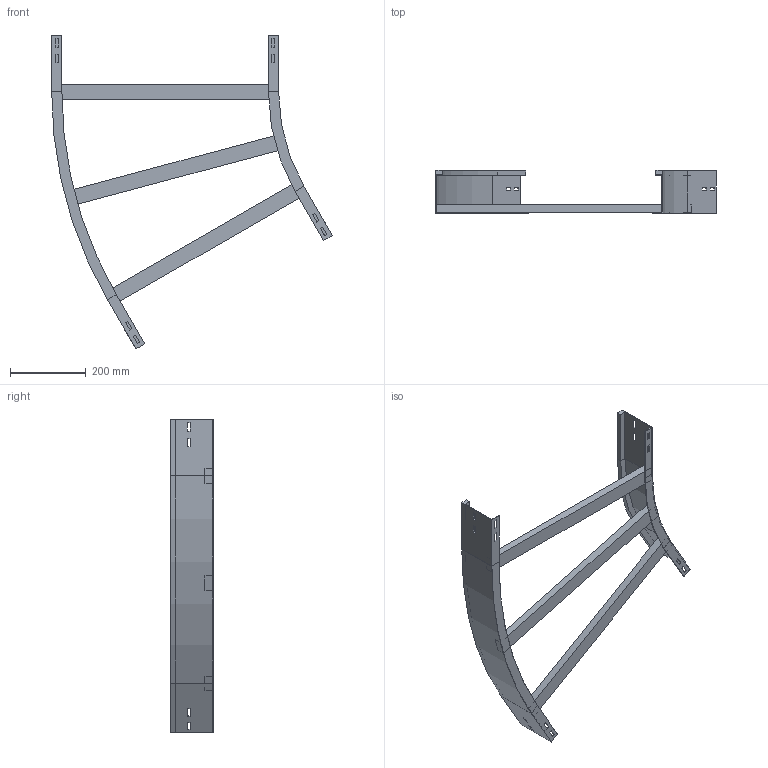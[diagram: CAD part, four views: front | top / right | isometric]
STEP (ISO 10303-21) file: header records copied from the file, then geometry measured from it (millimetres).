
FILE_DESCRIPTION (( 'STEP AP214' ), '1' );
FILE_NAME ('12B5J600.step', '2025-02-21T15:08:30', ( '' ), ( '' ), 'SwSTEP 2.0', 'SolidWorks 2023', '' );
FILE_SCHEMA (( 'AUTOMOTIVE_DESIGN' ));
Length unit declared in the file: millimetre
Products named in the file (4): A2_LONGH.ESTERNO 30°_H112.5_R500+600; TRAVERSINO_600; A2_LONGH.INTERNO 30°_H112.5_R500; 12B5J600
Assembly tree (5 placements, depth 2):
  12B5J600
    A2_LONGH.INTERNO 30°_H112.5_R500
    A2_LONGH.ESTERNO 30°_H112.5_R500+600
    TRAVERSINO_600  x3
Bounding box: 741.99 x 112.5 x 829.9 mm (x, y, z)
Volume: 2114785 mm3; surface area: 667146.8 mm2
Topology: 5 solids, 5 shells, 134 faces, 340 edges, 216 vertices
Faces by surface type: plane 126, cylinder 8
Entity records: 3821 total; most frequent: CARTESIAN_POINT 646, ORIENTED_EDGE 632, DIRECTION 592, EDGE_CURVE 316, LINE 300, VECTOR 300, VERTEX_POINT 200, EDGE_LOOP 154
